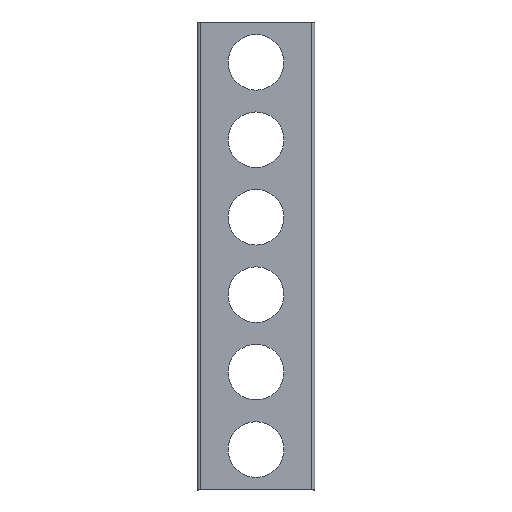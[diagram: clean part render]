
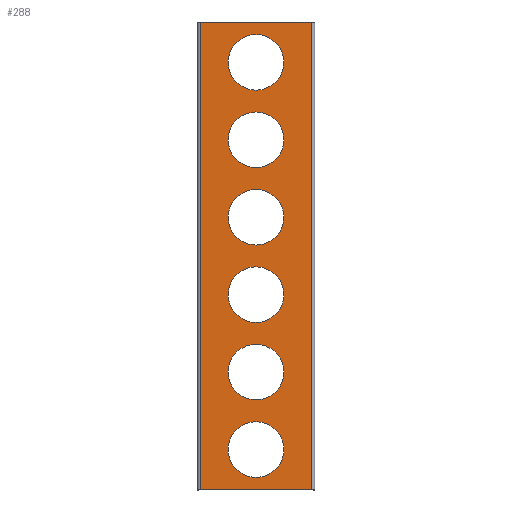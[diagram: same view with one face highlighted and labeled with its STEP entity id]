
A CAD part, top view. The second image highlights one B-rep face of the part: STEP entity #288.
In plain terms, the highlighted planar face has unit normal (0, 0, 1).
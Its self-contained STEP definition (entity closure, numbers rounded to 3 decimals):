
#3 = CARTESIAN_POINT ( 'NONE',  ( 0., 250., 40. ) ) ;
#4 = DIRECTION ( 'NONE',  ( 0., 0., -1. ) ) ;
#5 = DIRECTION ( 'NONE',  ( 1., 0., 0. ) ) ;
#35 = CARTESIAN_POINT ( 'NONE',  ( 0., 392., 40. ) ) ;
#38 = CARTESIAN_POINT ( 'NONE',  ( 51., 0., 40. ) ) ;
#41 = DIRECTION ( 'NONE',  ( 0., 0., -1. ) ) ;
#42 = DIRECTION ( 'NONE',  ( 1., 0., 0. ) ) ;
#45 = DIRECTION ( 'NONE',  ( 1., 0., 0. ) ) ;
#46 = CARTESIAN_POINT ( 'NONE',  ( 0., 108., 40. ) ) ;
#48 = CARTESIAN_POINT ( 'NONE',  ( 0., 392., 40. ) ) ;
#49 = DIRECTION ( 'NONE',  ( 0., 0., -1. ) ) ;
#50 = DIRECTION ( 'NONE',  ( 1., 0., 0. ) ) ;
#53 = CARTESIAN_POINT ( 'NONE',  ( 0., 108., 40. ) ) ;
#56 = DIRECTION ( 'NONE',  ( 0., 0., -1. ) ) ;
#57 = DIRECTION ( 'NONE',  ( 1., 0., 0. ) ) ;
#58 = DIRECTION ( 'NONE',  ( 0., 0., -1. ) ) ;
#59 = DIRECTION ( 'NONE',  ( 1., 0., 0. ) ) ;
#63 = CARTESIAN_POINT ( 'NONE',  ( 0., 37., 40. ) ) ;
#64 = DIRECTION ( 'NONE',  ( 0., 0., -1. ) ) ;
#65 = DIRECTION ( 'NONE',  ( 1., 0., 0. ) ) ;
#68 = CARTESIAN_POINT ( 'NONE',  ( 0., 179., 40. ) ) ;
#69 = DIRECTION ( 'NONE',  ( 0., 0., -1. ) ) ;
#70 = DIRECTION ( 'NONE',  ( 1., 0., 0. ) ) ;
#84 = CARTESIAN_POINT ( 'NONE',  ( 0., 37., 40. ) ) ;
#87 = CARTESIAN_POINT ( 'NONE',  ( 0., 321., 40. ) ) ;
#90 = DIRECTION ( 'NONE',  ( 0., 0., -1. ) ) ;
#91 = DIRECTION ( 'NONE',  ( 1., 0., 0. ) ) ;
#92 = CARTESIAN_POINT ( 'NONE',  ( 1., 429., 40. ) ) ;
#93 = DIRECTION ( 'NONE',  ( 1., 0., 0. ) ) ;
#95 = DIRECTION ( 'NONE',  ( 0., 0., -1. ) ) ;
#96 = DIRECTION ( 'NONE',  ( 1., 0., 0. ) ) ;
#97 = CARTESIAN_POINT ( 'NONE',  ( 0., 179., 40. ) ) ;
#99 = DIRECTION ( 'NONE',  ( 0., 0., -1. ) ) ;
#100 = DIRECTION ( 'NONE',  ( 1., 0., 0. ) ) ;
#104 = CARTESIAN_POINT ( 'NONE',  ( 51., 479., 40. ) ) ;
#112 = DIRECTION ( 'NONE',  ( 0., 1., 0. ) ) ;
#129 = CARTESIAN_POINT ( 'NONE',  ( 0., 250., 40. ) ) ;
#131 = DIRECTION ( 'NONE',  ( 0., 0., -1. ) ) ;
#132 = DIRECTION ( 'NONE',  ( 1., 0., 0. ) ) ;
#144 = CARTESIAN_POINT ( 'NONE',  ( 0., 321., 40. ) ) ;
#164 = DIRECTION ( 'NONE',  ( 0., 0., 1. ) ) ;
#165 = DIRECTION ( 'NONE',  ( 1., 0., 0. ) ) ;
#222 = CARTESIAN_POINT ( 'NONE',  ( 25.5, 179., 40. ) ) ;
#224 = CARTESIAN_POINT ( 'NONE',  ( 25.5, 37., 40. ) ) ;
#228 = CARTESIAN_POINT ( 'NONE',  ( 25.5, 250., 40. ) ) ;
#233 = CARTESIAN_POINT ( 'NONE',  ( 25.5, 392., 40. ) ) ;
#240 = CARTESIAN_POINT ( 'NONE',  ( 25.5, 321., 40. ) ) ;
#243 = CARTESIAN_POINT ( 'NONE',  ( -25.5, 37., 40. ) ) ;
#245 = CARTESIAN_POINT ( 'NONE',  ( -25.5, 108., 40. ) ) ;
#246 = CARTESIAN_POINT ( 'NONE',  ( 25.5, 108., 40. ) ) ;
#249 = CARTESIAN_POINT ( 'NONE',  ( -25.5, 321., 40. ) ) ;
#254 = CARTESIAN_POINT ( 'NONE',  ( -51., 0., 40. ) ) ;
#256 = CARTESIAN_POINT ( 'NONE',  ( -25.5, 392., 40. ) ) ;
#258 = CARTESIAN_POINT ( 'NONE',  ( 51., 429., 40. ) ) ;
#259 = CARTESIAN_POINT ( 'NONE',  ( -25.5, 250., 40. ) ) ;
#269 = CARTESIAN_POINT ( 'NONE',  ( 51., 0., 40. ) ) ;
#270 = CARTESIAN_POINT ( 'NONE',  ( -51., 429., 40. ) ) ;
#282 = CARTESIAN_POINT ( 'NONE',  ( -25.5, 179., 40. ) ) ;
#288 = ADVANCED_FACE ( 'NONE', ( #737, #736, #731, #729, #734, #735, #732 ), #444, .T. ) ;
#314 = DIRECTION ( 'NONE',  ( 0., 0., -1. ) ) ;
#315 = DIRECTION ( 'NONE',  ( 1., 0., 0. ) ) ;
#336 = CARTESIAN_POINT ( 'NONE',  ( -51., 479., 40. ) ) ;
#337 = DIRECTION ( 'NONE',  ( 0., 1., 0. ) ) ;
#358 = CIRCLE ( 'NONE', #529, 25.5 ) ;
#360 = LINE ( 'NONE', #104, #364 ) ;
#364 = VECTOR ( 'NONE', #112, 1000. ) ;
#388 = VERTEX_POINT ( 'NONE', #222 ) ;
#391 = VERTEX_POINT ( 'NONE', #256 ) ;
#393 = VERTEX_POINT ( 'NONE', #224 ) ;
#397 = VERTEX_POINT ( 'NONE', #270 ) ;
#400 = VERTEX_POINT ( 'NONE', #240 ) ;
#402 = VERTEX_POINT ( 'NONE', #269 ) ;
#406 = VERTEX_POINT ( 'NONE', #243 ) ;
#407 = VERTEX_POINT ( 'NONE', #228 ) ;
#409 = VERTEX_POINT ( 'NONE', #254 ) ;
#412 = VERTEX_POINT ( 'NONE', #259 ) ;
#415 = VERTEX_POINT ( 'NONE', #233 ) ;
#419 = VERTEX_POINT ( 'NONE', #246 ) ;
#420 = VERTEX_POINT ( 'NONE', #245 ) ;
#421 = VERTEX_POINT ( 'NONE', #258 ) ;
#431 = VERTEX_POINT ( 'NONE', #249 ) ;
#434 = VERTEX_POINT ( 'NONE', #282 ) ;
#439 = CARTESIAN_POINT ( 'NONE',  ( 2., 239.5, 40. ) ) ;
#444 = PLANE ( 'NONE',  #579 ) ;
#450 = EDGE_CURVE ( 'NONE', #407, #412, #671, .T. ) ;
#467 = EDGE_CURVE ( 'NONE', #415, #391, #641, .T. ) ;
#468 = EDGE_CURVE ( 'NONE', #409, #402, #642, .T. ) ;
#470 = EDGE_CURVE ( 'NONE', #419, #420, #637, .T. ) ;
#473 = EDGE_CURVE ( 'NONE', #391, #415, #632, .T. ) ;
#474 = EDGE_CURVE ( 'NONE', #420, #419, #631, .T. ) ;
#476 = EDGE_CURVE ( 'NONE', #393, #406, #628, .T. ) ;
#478 = EDGE_CURVE ( 'NONE', #388, #434, #626, .T. ) ;
#484 = AXIS2_PLACEMENT_3D ( 'NONE', #46, #49, #50 ) ;
#488 = EDGE_CURVE ( 'NONE', #406, #393, #613, .T. ) ;
#489 = EDGE_CURVE ( 'NONE', #397, #421, #617, .T. ) ;
#490 = EDGE_CURVE ( 'NONE', #431, #400, #612, .T. ) ;
#491 = EDGE_CURVE ( 'NONE', #434, #388, #610, .T. ) ;
#496 = EDGE_CURVE ( 'NONE', #402, #421, #360, .T. ) ;
#505 = EDGE_CURVE ( 'NONE', #412, #407, #358, .T. ) ;
#511 = EDGE_CURVE ( 'NONE', #400, #431, #602, .T. ) ;
#528 = AXIS2_PLACEMENT_3D ( 'NONE', #144, #314, #315 ) ;
#529 = AXIS2_PLACEMENT_3D ( 'NONE', #129, #131, #132 ) ;
#536 = AXIS2_PLACEMENT_3D ( 'NONE', #87, #95, #96 ) ;
#541 = AXIS2_PLACEMENT_3D ( 'NONE', #97, #99, #100 ) ;
#544 = AXIS2_PLACEMENT_3D ( 'NONE', #84, #90, #91 ) ;
#545 = AXIS2_PLACEMENT_3D ( 'NONE', #68, #69, #70 ) ;
#546 = AXIS2_PLACEMENT_3D ( 'NONE', #53, #58, #59 ) ;
#548 = AXIS2_PLACEMENT_3D ( 'NONE', #48, #56, #57 ) ;
#550 = AXIS2_PLACEMENT_3D ( 'NONE', #63, #64, #65 ) ;
#551 = EDGE_CURVE ( 'NONE', #409, #397, #595, .T. ) ;
#553 = AXIS2_PLACEMENT_3D ( 'NONE', #3, #4, #5 ) ;
#555 = AXIS2_PLACEMENT_3D ( 'NONE', #35, #41, #42 ) ;
#579 = AXIS2_PLACEMENT_3D ( 'NONE', #439, #164, #165 ) ;
#595 = LINE ( 'NONE', #336, #597 ) ;
#597 = VECTOR ( 'NONE', #337, 1000. ) ;
#602 = CIRCLE ( 'NONE', #528, 25.5 ) ;
#610 = CIRCLE ( 'NONE', #541, 25.5 ) ;
#612 = CIRCLE ( 'NONE', #536, 25.5 ) ;
#613 = CIRCLE ( 'NONE', #544, 25.5 ) ;
#616 = VECTOR ( 'NONE', #93, 1000. ) ;
#617 = LINE ( 'NONE', #92, #616 ) ;
#626 = CIRCLE ( 'NONE', #545, 25.5 ) ;
#628 = CIRCLE ( 'NONE', #550, 25.5 ) ;
#631 = CIRCLE ( 'NONE', #546, 25.5 ) ;
#632 = CIRCLE ( 'NONE', #548, 25.5 ) ;
#637 = CIRCLE ( 'NONE', #484, 25.5 ) ;
#641 = CIRCLE ( 'NONE', #555, 25.5 ) ;
#642 = LINE ( 'NONE', #38, #645 ) ;
#645 = VECTOR ( 'NONE', #45, 1000. ) ;
#671 = CIRCLE ( 'NONE', #553, 25.5 ) ;
#729 = FACE_BOUND ( 'NONE', #768, .T. ) ;
#731 = FACE_BOUND ( 'NONE', #770, .T. ) ;
#732 = FACE_OUTER_BOUND ( 'NONE', #766, .T. ) ;
#734 = FACE_BOUND ( 'NONE', #769, .T. ) ;
#735 = FACE_BOUND ( 'NONE', #767, .T. ) ;
#736 = FACE_BOUND ( 'NONE', #772, .T. ) ;
#737 = FACE_BOUND ( 'NONE', #775, .T. ) ;
#766 = EDGE_LOOP ( 'NONE', ( #823, #840, #875, #865 ) ) ;
#767 = EDGE_LOOP ( 'NONE', ( #850, #895 ) ) ;
#768 = EDGE_LOOP ( 'NONE', ( #782, #791 ) ) ;
#769 = EDGE_LOOP ( 'NONE', ( #905, #878 ) ) ;
#770 = EDGE_LOOP ( 'NONE', ( #900, #837 ) ) ;
#772 = EDGE_LOOP ( 'NONE', ( #901, #917 ) ) ;
#775 = EDGE_LOOP ( 'NONE', ( #908, #914 ) ) ;
#782 = ORIENTED_EDGE ( 'NONE', *, *, #476, .T. ) ;
#791 = ORIENTED_EDGE ( 'NONE', *, *, #488, .T. ) ;
#823 = ORIENTED_EDGE ( 'NONE', *, *, #489, .F. ) ;
#837 = ORIENTED_EDGE ( 'NONE', *, *, #474, .T. ) ;
#840 = ORIENTED_EDGE ( 'NONE', *, *, #551, .F. ) ;
#850 = ORIENTED_EDGE ( 'NONE', *, *, #511, .T. ) ;
#865 = ORIENTED_EDGE ( 'NONE', *, *, #496, .T. ) ;
#875 = ORIENTED_EDGE ( 'NONE', *, *, #468, .T. ) ;
#878 = ORIENTED_EDGE ( 'NONE', *, *, #491, .T. ) ;
#895 = ORIENTED_EDGE ( 'NONE', *, *, #490, .T. ) ;
#900 = ORIENTED_EDGE ( 'NONE', *, *, #470, .T. ) ;
#901 = ORIENTED_EDGE ( 'NONE', *, *, #450, .T. ) ;
#905 = ORIENTED_EDGE ( 'NONE', *, *, #478, .T. ) ;
#908 = ORIENTED_EDGE ( 'NONE', *, *, #467, .T. ) ;
#914 = ORIENTED_EDGE ( 'NONE', *, *, #473, .T. ) ;
#917 = ORIENTED_EDGE ( 'NONE', *, *, #505, .T. ) ;
